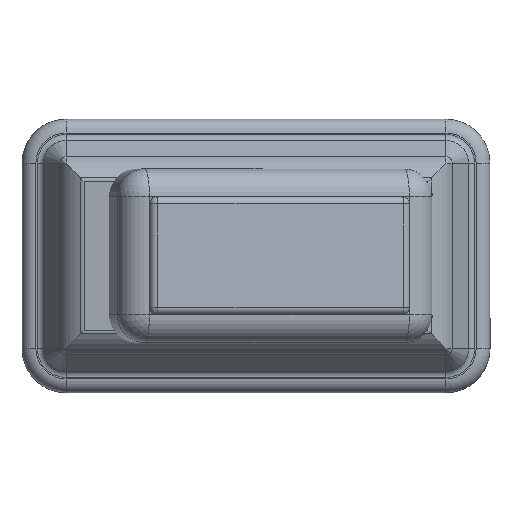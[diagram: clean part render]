
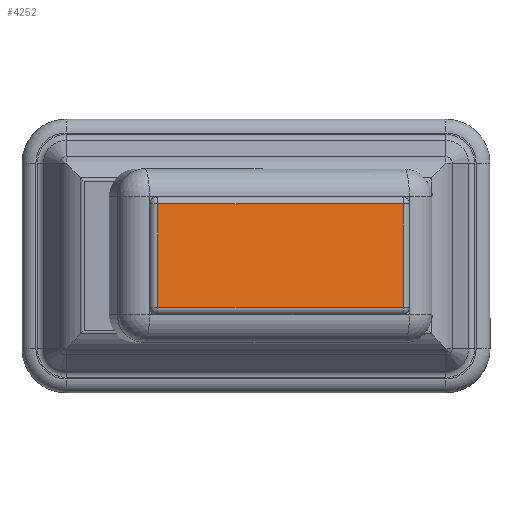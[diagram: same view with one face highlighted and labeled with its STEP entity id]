
A CAD part, top view. The second image highlights one B-rep face of the part: STEP entity #4252.
In plain terms, the highlighted planar face has unit normal (0.174, 0, 0.985) as drawn and (0, 0, 1) by its records, which use the part's own axes.
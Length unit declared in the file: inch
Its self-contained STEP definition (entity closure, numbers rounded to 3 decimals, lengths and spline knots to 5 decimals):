
#207=PLANE('',#4806);
#479=FACE_OUTER_BOUND('',#734,.T.);
#734=EDGE_LOOP('',(#3906,#3907,#3908,#3909));
#1120=LINE('',#7424,#1517);
#1124=LINE('',#7440,#1521);
#1126=LINE('',#7443,#1523);
#1128=LINE('',#7446,#1525);
#1517=VECTOR('',#6062,0.3937);
#1521=VECTOR('',#6080,0.3937);
#1523=VECTOR('',#6084,0.3937);
#1525=VECTOR('',#6088,0.3937);
#2072=VERTEX_POINT('',#7386);
#2077=VERTEX_POINT('',#7399);
#2082=VERTEX_POINT('',#7412);
#2087=VERTEX_POINT('',#7428);
#2682=EDGE_CURVE('',#2072,#2082,#1120,.T.);
#2690=EDGE_CURVE('',#2082,#2087,#1124,.T.);
#2692=EDGE_CURVE('',#2087,#2077,#1126,.T.);
#2694=EDGE_CURVE('',#2077,#2072,#1128,.T.);
#3906=ORIENTED_EDGE('',*,*,#2682,.F.);
#3907=ORIENTED_EDGE('',*,*,#2694,.F.);
#3908=ORIENTED_EDGE('',*,*,#2692,.F.);
#3909=ORIENTED_EDGE('',*,*,#2690,.F.);
#4252=ADVANCED_FACE('',(#479),#207,.T.);
#4806=AXIS2_PLACEMENT_3D('',#7455,#6100,#6101);
#6062=DIRECTION('',(-1.,0.,0.));
#6080=DIRECTION('',(0.,1.,0.));
#6084=DIRECTION('',(1.,0.,0.));
#6088=DIRECTION('',(0.,-1.,0.));
#6100=DIRECTION('center_axis',(0.,0.,1.));
#6101=DIRECTION('ref_axis',(1.,0.,0.));
#7386=CARTESIAN_POINT('',(0.14732,-0.80677,0.021));
#7399=CARTESIAN_POINT('',(0.14732,-0.09874,0.021));
#7412=CARTESIAN_POINT('',(-0.14732,-0.80677,0.021));
#7424=CARTESIAN_POINT('',(-0.08366,-0.80677,0.021));
#7428=CARTESIAN_POINT('',(-0.14732,-0.09874,0.021));
#7440=CARTESIAN_POINT('',(-0.14732,-0.26575,0.021));
#7443=CARTESIAN_POINT('',(0.08366,-0.09874,0.021));
#7446=CARTESIAN_POINT('',(0.14732,-0.63976,0.021));
#7455=CARTESIAN_POINT('Origin',(0.,-0.45276,
0.021));
